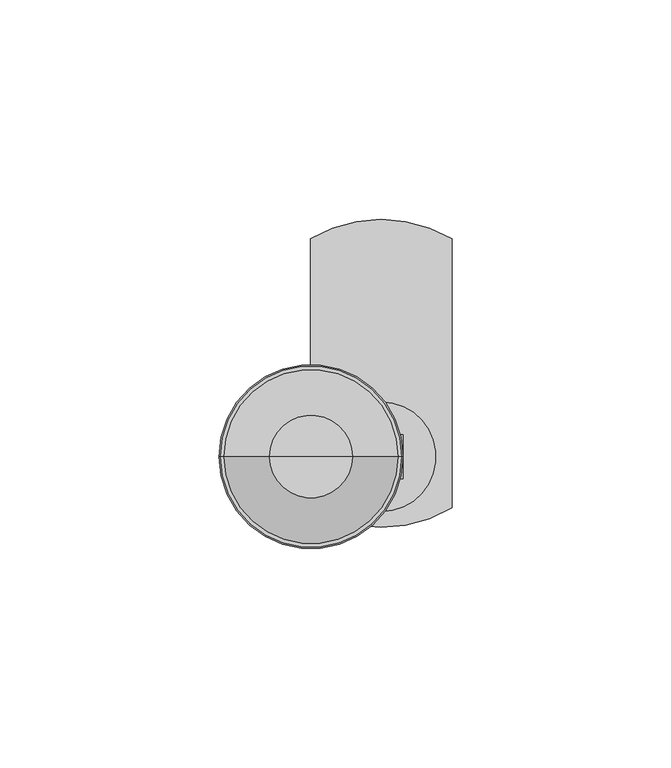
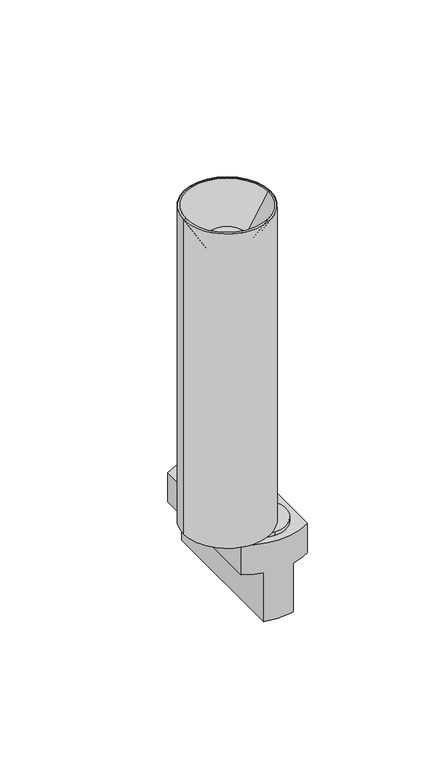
"""IFC4 building model written with IfcOpenShell, lengths in millimetres: light fixture geometry, PIPES T XS : 630lm 7,8W 840 38°."""

from ifc_helpers import new_model, si_unit, point, frame, frame_2d, origin, origin_2d, place, context, project, spatial, polyline, circle_curve, trimmed, segment, composite_curve, outline, extrude, source, transform, mapped, element, save
from ifc_brep_helpers import plane_surface, cylinder_surface, revolved_surface, advanced_brep


def light_fixture_6688fc12(model_context):
    return source(origin(), model_context, "Body", "SolidModel", [
        extrude(outline(composite_curve([segment(polyline([(16.8, -5.0), (16.8, 3.0), (19.8, 3.0), (19.8, 5.0), (77.8486083, 5.0), (77.8486083, -3.0)]), True, "CONTINUOUS"), segment(trimmed(circle_curve(frame_2d((72.2216603, -3.0)), 5.626948), [point((77.8486083, -3.0))], [point((72.2216603, -8.626948))], False, "CARTESIAN"), True, "CONTINUOUS"), segment(polyline([(72.2216603, -8.626948), (66.4039036, -8.626948)]), True, "CONTINUOUS"), segment(trimmed(circle_curve(frame_2d((74.2485419, -2.7611322)), 9.7952104), [point((66.4039036, -8.626948))], [point((64.7126299, -5.0))], False, "CARTESIAN"), True, "CONTINUOUS"), segment(polyline([(64.7126299, -5.0), (16.8, -5.0)]), True, "CONTINUOUS")], self_intersect=False)), frame((0.0, -5.0, 0.0), z_axis=(0.0, 1.0, 0.0), x_axis=(0.0, 0.0, 1.0)), (0.0, 0.0, 1.0), 10.0),
        extrude(outline(composite_curve([segment(trimmed(circle_curve(origin_2d(), 12.5), [point((0.0, 12.5))], [point((0.0, -12.5))], False, "CARTESIAN"), True, "CONTINUOUS"), segment(trimmed(circle_curve(origin_2d(), 12.5), [point((0.0, -12.5))], [point((0.0, 12.5))], False, "CARTESIAN"), True, "CONTINUOUS")], self_intersect=False)), frame((0.0, 0.0, 15.0), z_axis=(0.0, 0.0, 1.0), x_axis=(1.0, 0.0, 0.0)), (0.0, 0.0, 1.0), 1.8),
        advanced_brep(
        [(-7.1153658, -15.2862846, -25.0), (-7.1153658, 53.3498174, -25.0), (7.1153658, 53.3498174, -25.0), (7.1153658, -15.2862846, -25.0), (-16.1153658, 49.7317664, 15.0), (-16.1153658, -11.6682336, 15.0), (16.1153658, -11.6682336, 15.0), (16.1153658, 49.7317664, 15.0), (-16.1153658, 49.7317664, 0.0), (-16.1153658, -11.6682336, 0.0), (-7.1153658, -15.2862846, 0.0), (7.1153658, -15.2862846, 0.0), (16.1153658, -11.6682336, 0.0), (16.1153658, 49.7317664, 0.0), (7.1153658, 53.3498174, 0.0), (-7.1153658, 53.3498174, 0.0)],
        [
            (0, 1),
            (1, 2, circle_curve(frame((0.0, 22.6472542, -25.0), z_axis=(0.0, 0.0, -1.0), x_axis=(1.0, 0.0, 0.0)), 31.5162786)),
            (2, 3),
            (3, 0, circle_curve(frame((0.0, 15.4162786, -25.0), z_axis=(0.0, 0.0, -1.0), x_axis=(1.0, 0.0, 0.0)), 31.5162786)),
            (4, 5),
            (5, 6, circle_curve(frame((0.0, 15.4162786, 15.0), z_axis=(0.0, 0.0, 1.0), x_axis=(1.0, 0.0, 0.0)), 31.5162786)),
            (6, 7),
            (7, 4, circle_curve(frame((0.0, 22.6472542, 15.0), z_axis=(0.0, 0.0, 1.0), x_axis=(1.0, 0.0, 0.0)), 31.5162786)),
            (4, 8),
            (8, 9),
            (9, 5),
            (9, 10, circle_curve(frame((0.0, 15.4162786, 0.0), z_axis=(0.0, 0.0, 1.0), x_axis=(1.0, 0.0, 0.0)), 31.5162786)),
            (10, 0),
            (3, 11),
            (11, 12, circle_curve(frame((0.0, 15.4162786, 0.0), z_axis=(0.0, 0.0, 1.0), x_axis=(1.0, 0.0, 0.0)), 31.5162786)),
            (12, 6),
            (12, 13),
            (13, 7),
            (13, 14, circle_curve(frame((0.0, 22.6472542, 0.0), z_axis=(0.0, 0.0, 1.0), x_axis=(1.0, 0.0, 0.0)), 31.5162786)),
            (14, 2),
            (1, 15),
            (15, 8, circle_curve(frame((0.0, 22.6472542, 0.0), z_axis=(0.0, 0.0, 1.0), x_axis=(1.0, 0.0, 0.0)), 31.5162786)),
            (15, 10),
            (11, 14),
        ],
        [
            plane_surface(frame((-16.1153658, -11.6883244, -25.0), z_axis=(0.0, 0.0, -1.0), x_axis=(0.0, 1.0, 0.0))),
            plane_surface(frame((-16.1153658, -11.6883244, 15.0), z_axis=(0.0, 0.0, 1.0), x_axis=(0.0, -1.0, 0.0))),
            plane_surface(frame((-16.1153658, 49.7317664, 15.0), z_axis=(-1.0, 0.0, 0.0), x_axis=(0.0, 0.0, -1.0))),
            cylinder_surface(frame((0.0, 15.4162786, -25.0), z_axis=(0.0, 0.0, 1.0), x_axis=(1.0, 0.0, 0.0)), 31.5162786),
            plane_surface(frame((16.1153658, -11.6682336, 15.0), z_axis=(1.0, 0.0, 0.0), x_axis=(0.0, 0.0, -1.0))),
            cylinder_surface(frame((0.0, 22.6472542, -25.0), z_axis=(0.0, 0.0, 1.0), x_axis=(1.0, 0.0, 0.0)), 31.5162786),
            plane_surface(frame((-7.1153658, 58.6979838, 0.0), z_axis=(0.0, 0.0, -1.0), x_axis=(-1.0, 0.0, 0.0))),
            plane_surface(frame((-7.1153658, -21.3020162, 0.0), z_axis=(-1.0, 0.0, 0.0), x_axis=(0.0, 0.0, -1.0))),
            plane_surface(frame((7.1153658, -11.6883244, 0.0), z_axis=(0.0, 0.0, -1.0), x_axis=(0.0, -1.0, 0.0))),
            plane_surface(frame((7.1153658, 58.6979838, 0.0), z_axis=(1.0, 0.0, 0.0), x_axis=(0.0, 0.0, -1.0))),
        ],
        [
            (0, [[1, 2, 3, 4]]),
            (1, [[5, 6, 7, 8]]),
            (2, [[-5, 9, 10, 11]]),
            (3, [[-6, -11, 12, 13, -4, 14, 15, 16]]),
            (4, [[-7, -16, 17, 18]]),
            (5, [[-8, -18, 19, 20, -2, 21, 22, -9]]),
            (6, [[23, -12, -10, -22]]),
            (7, [[-23, -21, -1, -13]]),
            (8, [[24, -19, -17, -15]]),
            (9, [[-24, -14, -3, -20]]),
        ],
    ),
        advanced_brep(
        [(-5.0, 5.0, 78.0), (-5.0, 5.0, 27.0), (2.3303028, 5.0, 27.0), (2.3303028, 5.0, 21.0), (4.3960781, 5.0, 21.0), (4.3960781, 5.0, 78.0), (-5.0, -5.0, 78.0), (4.3960781, -5.0, 78.0), (4.3960781, -5.0, 21.0), (2.3303028, -5.0, 21.0), (2.3303028, -5.0, 27.0), (-5.0, -5.0, 27.0), (-5.0, 0.0, 27.0), (5.0, 0.0, 78.0), (5.0, 0.0, 182.0), (-37.0, 0.0, 182.0), (-37.0, 0.0, 21.0), (-35.0, 0.0, 21.0), (-35.0, 0.0, 27.0), (-16.0, 0.0, 27.0), (-26.0, 0.0, 163.5), (-6.0, 0.0, 163.5), (-16.0, 0.0, 163.5)],
        [
            (0, 1),
            (1, 2),
            (2, 3),
            (3, 4),
            (4, 5),
            (5, 0),
            (6, 7),
            (7, 8),
            (8, 9),
            (9, 10),
            (10, 11),
            (11, 6),
            (0, 6),
            (11, 12),
            (12, 1),
            (5, 13, circle_curve(frame((-16.0, 0.0, 78.0), z_axis=(0.0, 0.0, -1.0), x_axis=(1.0, 0.0, 0.0)), 21.0)),
            (13, 7, circle_curve(frame((-16.0, 0.0, 78.0), z_axis=(0.0, 0.0, -1.0), x_axis=(1.0, 0.0, 0.0)), 21.0)),
            (14, 15, circle_curve(frame((-16.0, 0.0, 182.0), z_axis=(0.0, 0.0, -1.0), x_axis=(1.0, 0.0, 0.0)), 21.0)),
            (15, 16),
            (16, 8, circle_curve(frame((-16.0, 0.0, 21.0), z_axis=(0.0, 0.0, 1.0), x_axis=(1.0, 0.0, 0.0)), 21.0)),
            (13, 14),
            (15, 14, circle_curve(frame((-16.0, 0.0, 182.0), z_axis=(0.0, 0.0, -1.0), x_axis=(1.0, 0.0, 0.0)), 21.0)),
            (4, 16, circle_curve(frame((-16.0, 0.0, 21.0), z_axis=(0.0, 0.0, 1.0), x_axis=(1.0, 0.0, 0.0)), 21.0)),
            (16, 17),
            (17, 9, circle_curve(frame((-16.0, 0.0, 21.0), z_axis=(0.0, 0.0, 1.0), x_axis=(1.0, 0.0, 0.0)), 19.0)),
            (3, 17, circle_curve(frame((-16.0, 0.0, 21.0), z_axis=(0.0, 0.0, 1.0), x_axis=(1.0, 0.0, 0.0)), 19.0)),
            (17, 18),
            (18, 10, circle_curve(frame((-16.0, 0.0, 27.0), z_axis=(0.0, 0.0, 1.0), x_axis=(1.0, 0.0, 0.0)), 19.0)),
            (2, 18, circle_curve(frame((-16.0, 0.0, 27.0), z_axis=(0.0, 0.0, 1.0), x_axis=(1.0, 0.0, 0.0)), 19.0)),
            (18, 19),
            (19, 12),
            (20, 21, circle_curve(frame((-16.0, 0.0, 163.5), z_axis=(0.0, 0.0, 1.0), x_axis=(1.0, 0.0, 0.0)), 10.0)),
            (21, 22),
            (22, 20),
            (21, 20, circle_curve(frame((-16.0, 0.0, 163.5), z_axis=(0.0, 0.0, 1.0), x_axis=(1.0, 0.0, 0.0)), 10.0)),
            (14, 21),
            (20, 15),
        ],
        [
            plane_surface(frame((-5.0, 5.0, 78.0), z_axis=(0.0, -1.0, 0.0), x_axis=(0.0, 0.0, 1.0))),
            plane_surface(frame((-5.0, -5.0, 78.0), z_axis=(0.0, 1.0, 0.0), x_axis=(0.0, 0.0, -1.0))),
            plane_surface(frame((-5.0, -5.0, 78.0), z_axis=(1.0, 0.0, 0.0), x_axis=(0.0, 1.0, 0.0))),
            plane_surface(frame((15.0, -5.0, 78.0), z_axis=(0.0, 0.0, -1.0), x_axis=(0.0, 1.0, 0.0))),
            cylinder_surface(frame((-16.0, 0.0, 12.547619), z_axis=(0.0, 0.0, -1.0), x_axis=(1.0, 0.0, 0.0)), 21.0),
            plane_surface(frame((-16.0, 0.0, 21.0), z_axis=(0.0, 0.0, -1.0), x_axis=(1.0, 0.0, 0.0))),
            revolved_surface(polyline([(3.0, 0.0, 21.0), (3.0, 0.0, 27.0)]), (-16.0, 0.0, 12.547619), (0.0, 0.0, -1.0)),
            plane_surface(frame((-16.0, 0.0, 27.0), z_axis=(0.0, 0.0, -1.0), x_axis=(1.0, 0.0, 0.0))),
            plane_surface(frame((-16.0, 0.0, 163.5), z_axis=(0.0, 0.0, 1.0), x_axis=(1.0, 0.0, 0.0))),
            revolved_surface(polyline([(-6.0, 0.0, 163.5), (5.0, 0.0, 182.0)]), (-16.0, 0.0, 12.547619), (0.0, 0.0, -1.0)),
        ],
        [
            (0, [[1, 2, 3, 4, 5, 6]]),
            (1, [[7, 8, 9, 10, 11, 12]]),
            (2, [[13, -12, 14, 15, -1]]),
            (3, [[-13, -6, 16, 17, -7]]),
            (4, [[18, 19, 20, -8, -17, 21]]),
            (4, [[-19, 22, -21, -16, -5, 23]]),
            (5, [[24, 25, -9, -20]]),
            (5, [[-24, -23, -4, 26]]),
            (6, [[27, 28, -10, -25]]),
            (6, [[-27, -26, -3, 29]]),
            (7, [[30, 31, -14, -11, -28]]),
            (7, [[-30, -29, -2, -15, -31]]),
            (8, [[32, 33, 34]]),
            (8, [[-33, 35, -34]]),
            (9, [[-18, 36, -32, 37]]),
            (9, [[-22, -37, -35, -36]]),
        ],
    ),
        advanced_brep(
        [(-5.0, 5.0, 23.0), (-5.0, 5.0, 21.0), (0.2414259, 5.0, 21.0), (0.2414259, 5.0, 23.0), (-5.0, -5.0, 21.0), (-5.0, -5.0, 23.0), (0.2414259, -5.0, 23.0), (0.2414259, -5.0, 21.0), (-5.0, 0.0, 23.0), (-5.0, 0.0, 21.0), (-16.0, 0.0, 23.0), (-32.9936434, 0.0, 23.0), (-32.9936434, 0.0, 21.0), (-16.0, 0.0, 21.0)],
        [
            (0, 1),
            (1, 2),
            (2, 3),
            (3, 0),
            (4, 5),
            (5, 6),
            (6, 7),
            (7, 4),
            (0, 8),
            (8, 5),
            (4, 9),
            (9, 1),
            (10, 11),
            (11, 6, circle_curve(frame((-16.0, 0.0, 23.0), z_axis=(0.0, 0.0, 1.0), x_axis=(1.0, 0.0, 0.0)), 16.9936434)),
            (8, 10),
            (3, 11, circle_curve(frame((-16.0, 0.0, 23.0), z_axis=(0.0, 0.0, 1.0), x_axis=(1.0, 0.0, 0.0)), 16.9936434)),
            (11, 12),
            (12, 7, circle_curve(frame((-16.0, 0.0, 21.0), z_axis=(0.0, 0.0, 1.0), x_axis=(1.0, 0.0, 0.0)), 16.9936434)),
            (2, 12, circle_curve(frame((-16.0, 0.0, 21.0), z_axis=(0.0, 0.0, 1.0), x_axis=(1.0, 0.0, 0.0)), 16.9936434)),
            (12, 13),
            (13, 9),
        ],
        [
            plane_surface(frame((-5.0, 5.0, 78.0), z_axis=(0.0, -1.0, 0.0), x_axis=(0.0, 0.0, 1.0))),
            plane_surface(frame((-5.0, -5.0, 78.0), z_axis=(0.0, 1.0, 0.0), x_axis=(0.0, 0.0, -1.0))),
            plane_surface(frame((-5.0, -5.0, 78.0), z_axis=(1.0, 0.0, 0.0), x_axis=(0.0, 1.0, 0.0))),
            plane_surface(frame((-16.0, 0.0, 23.0), z_axis=(0.0, 0.0, 1.0), x_axis=(1.0, 0.0, 0.0))),
            cylinder_surface(frame((-16.0, 0.0, 153.047619), z_axis=(0.0, 0.0, -1.0), x_axis=(1.0, 0.0, 0.0)), 16.9936434),
            plane_surface(frame((-16.0, 0.0, 21.0), z_axis=(0.0, 0.0, -1.0), x_axis=(1.0, 0.0, 0.0))),
        ],
        [
            (0, [[1, 2, 3, 4]]),
            (1, [[5, 6, 7, 8]]),
            (2, [[-1, 9, 10, -5, 11, 12]]),
            (3, [[13, 14, -6, -10, 15]]),
            (3, [[-13, -15, -9, -4, 16]]),
            (4, [[17, 18, -7, -14]]),
            (4, [[-17, -16, -3, 19]]),
            (5, [[20, 21, -11, -8, -18]]),
            (5, [[-20, -19, -2, -12, -21]]),
        ],
    ),
        advanced_brep(
        [(-25.431176, 0.0, 164.5), (-6.568824, 0.0, 164.5), (-16.0, 0.0, 164.5), (-35.8365814, 0.0, 182.0), (3.8365814, 0.0, 182.0), (-37.0, 0.0, 182.0), (5.0, 0.0, 182.0), (-26.0, 0.0, 163.5), (-6.0, 0.0, 163.5), (-16.0, 0.0, 163.5)],
        [
            (0, 1, circle_curve(frame((-16.0, 0.0, 164.5), z_axis=(0.0, 0.0, 1.0), x_axis=(1.0, 0.0, 0.0)), 9.431176)),
            (1, 2),
            (2, 0),
            (1, 0, circle_curve(frame((-16.0, 0.0, 164.5), z_axis=(0.0, 0.0, 1.0), x_axis=(1.0, 0.0, 0.0)), 9.431176)),
            (3, 4, circle_curve(frame((-16.0, 0.0, 182.0), z_axis=(0.0, 0.0, 1.0), x_axis=(1.0, 0.0, 0.0)), 19.8365814)),
            (4, 1),
            (0, 3),
            (4, 3, circle_curve(frame((-16.0, 0.0, 182.0), z_axis=(0.0, 0.0, 1.0), x_axis=(1.0, 0.0, 0.0)), 19.8365814)),
            (5, 6, circle_curve(frame((-16.0, 0.0, 182.0), z_axis=(0.0, 0.0, 1.0), x_axis=(1.0, 0.0, 0.0)), 21.0)),
            (6, 4),
            (3, 5),
            (6, 5, circle_curve(frame((-16.0, 0.0, 182.0), z_axis=(0.0, 0.0, 1.0), x_axis=(1.0, 0.0, 0.0)), 21.0)),
            (7, 8, circle_curve(frame((-16.0, 0.0, 163.5), z_axis=(0.0, 0.0, 1.0), x_axis=(1.0, 0.0, 0.0)), 10.0)),
            (8, 6),
            (5, 7),
            (8, 7, circle_curve(frame((-16.0, 0.0, 163.5), z_axis=(0.0, 0.0, 1.0), x_axis=(1.0, 0.0, 0.0)), 10.0)),
            (9, 8),
            (7, 9),
        ],
        [
            plane_surface(frame((-16.0, 0.0, 164.5), z_axis=(0.0, 0.0, 1.0), x_axis=(1.0, 0.0, 0.0))),
            revolved_surface(polyline([(-6.568824, 0.0, 164.5), (3.8365814, 0.0, 182.0)]), (-16.0, 0.0, -7.452381), (0.0, 0.0, -1.0)),
            plane_surface(frame((-16.0, 0.0, 182.0), z_axis=(0.0, 0.0, 1.0), x_axis=(1.0, 0.0, 0.0))),
            revolved_surface(polyline([(5.0, 0.0, 182.0), (-6.0, 0.0, 163.5)]), (-16.0, 0.0, -7.452381), (0.0, 0.0, -1.0)),
            plane_surface(frame((-16.0, 0.0, 163.5), z_axis=(0.0, 0.0, -1.0), x_axis=(1.0, 0.0, 0.0))),
        ],
        [
            (0, [[1, 2, 3]]),
            (0, [[4, -3, -2]]),
            (1, [[5, 6, -1, 7]]),
            (1, [[8, -7, -4, -6]]),
            (2, [[9, 10, -5, 11]]),
            (2, [[12, -11, -8, -10]]),
            (3, [[13, 14, -9, 15]]),
            (3, [[16, -15, -12, -14]]),
            (4, [[17, -13, 18]]),
            (4, [[-18, -16, -17]]),
        ],
    ),
    ])


if __name__ == "__main__":
    model = new_model("IFC4")
    model_context = context("Model", 3, world=origin())
    ifc_project = project(units=[si_unit("LENGTHUNIT", "METRE", prefix="MILLI")], contexts=[model_context])
    site = spatial("IfcSite", under=ifc_project)
    building = spatial("IfcBuilding", under=site)
    placement = place(None, origin())
    light_fixture_shape = light_fixture_6688fc12(model_context)
    element("IfcLightFixture", 1, ObjectType="PIPES T XS : 630lm 7,8W 840 38°", at=placement, inside=building, context=model_context, shape_type="MappedRepresentation", body=[
        mapped(light_fixture_shape, transform((0.0, 0.0, 0.0), x_axis=(1.0, 0.0, 0.0), y_axis=(0.0, 1.0, 0.0), z_axis=(0.0, 0.0, 1.0))),
    ])
    save(model, "model.ifc")
